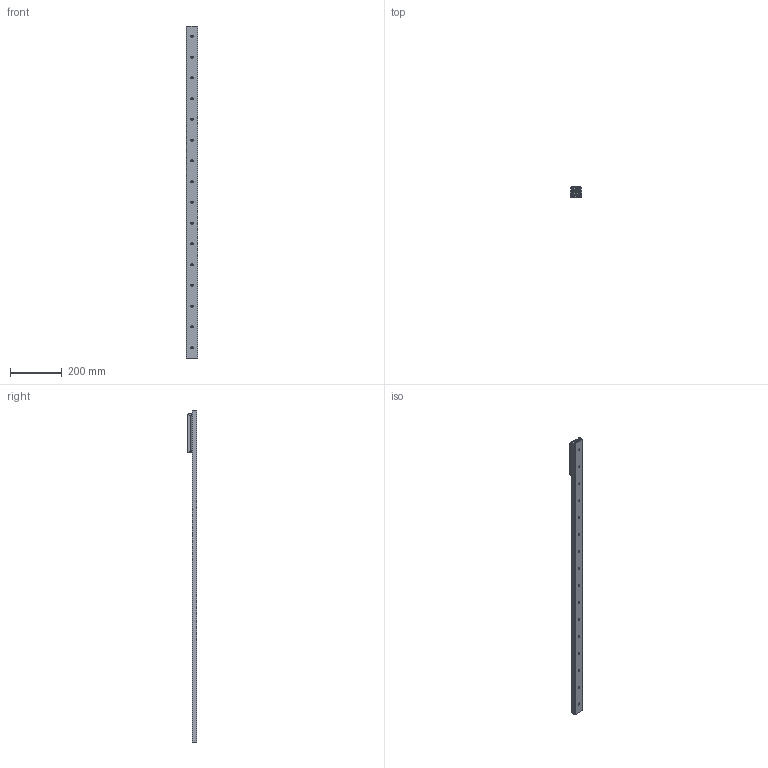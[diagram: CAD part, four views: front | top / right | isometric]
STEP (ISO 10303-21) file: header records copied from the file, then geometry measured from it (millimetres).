
FILE_DESCRIPTION( ( 'STEP AP214' ), '1' );
FILE_NAME( 'p:/temp/worker_34/temp/exporttempdir_3788_109_XzkCv/format_2/TGV-01280_1_RV43G-3.stp', '2021-06-09T19:30:28', ( 'License CC BY-ND 4.0' ), ( 'CADENAS' ), ' ', 'PARTsolutions', ' ' );
FILE_SCHEMA( ( 'AUTOMOTIVE_DESIGN { 1 0 10303 214 1 1 1 1 }' ) );
Length unit declared in the file: millimetre
Products named in the file (6): TGV-01280/1/RV43G-3; _TGV43-1280-(3-1); _RVG43-3-slider; _RGNV43R; _RGAV43R; _WR43G-01
Assembly tree (7 placements, depth 2):
  TGV-01280/1/RV43G-3
    _TGV43-1280-(3-1)
    _RVG43-3-slider
    _RGNV43R  x2
    _RGAV43R
    _WR43G-01  x2
Bounding box: 43 x 37 x 1280 mm (x, y, z)
Volume: 589559.2 mm3; surface area: 236419.8 mm2
Topology: 7 solids, 7 shells, 1073 faces, 2804 edges, 1827 vertices
Faces by surface type: plane 663, cylinder 312, cone 55, bspline 34, torus 9
Full cylindrical faces by diameter (mm): 1.76 x4, 3 x8, 6 x4, 6.647 x4, 6.8 x3, 8 x3, 8.5 x16, 11 x11, 15 x6, 15.5 x1, 18.98 x2, 19 x1, 31.4 x6
Entity records: 25613 total; most frequent: CARTESIAN_POINT 4054, DIRECTION 3427, ORIENTED_EDGE 3160, EDGE_CURVE 1580, AXIS2_PLACEMENT_3D 1310, VERTEX_POINT 1099, EDGE_LOOP 893, LINE 807
